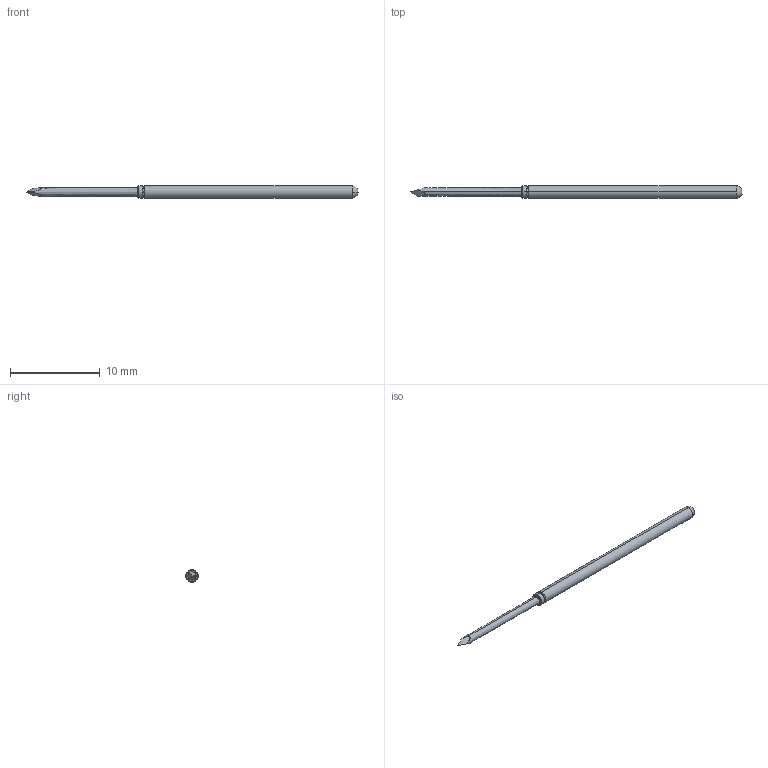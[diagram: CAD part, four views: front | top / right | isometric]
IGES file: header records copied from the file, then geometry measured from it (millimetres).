
Start section: SolidWorks IGES file using analytic representation for surfaces
Global section: file name: Z:\probe solid model mockups\Solidworks models\LTP-25\LTP-25T36.IGS; native system: SolidWorks 2006 by SolidWorks Corporation; preprocessor: SolidWorks 2006 by SolidWorks Corporation; author: tsakatani; date: 071214.143415; units: inch
Bounding box: 37.08 x 1.37 x 1.37 mm (x, y, z)
Surface area: 141.4 mm2 (no closed solid volume)
Topology: 0 solids, 0 shells, 21 faces, 166 edges, 166 vertices
Faces by surface type: revolution 12, bspline 9
